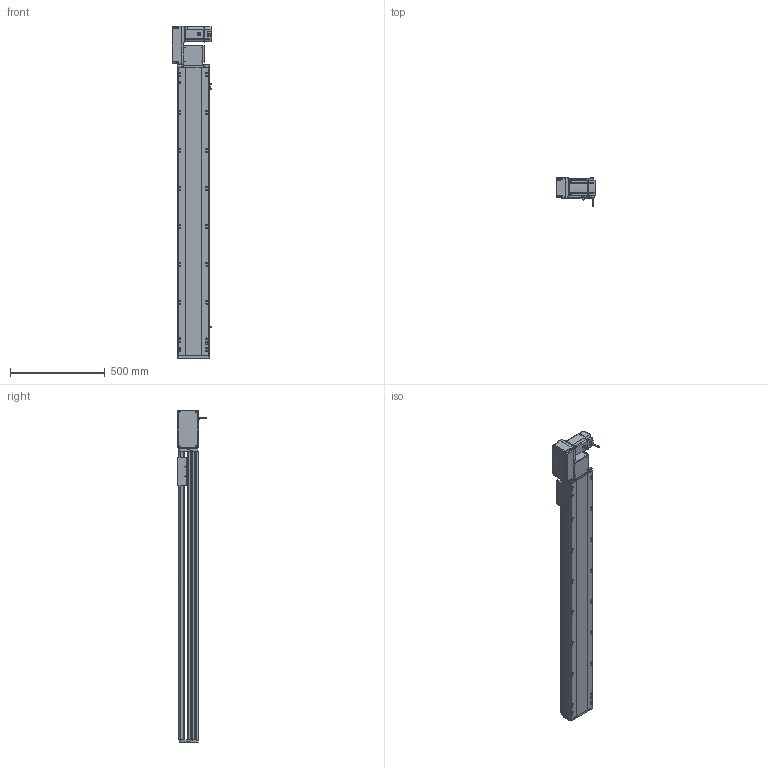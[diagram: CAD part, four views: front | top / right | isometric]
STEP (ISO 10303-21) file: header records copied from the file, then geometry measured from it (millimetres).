
FILE_DESCRIPTION (( 'STEP AP214' ), '1' );
FILE_NAME ('RTB17S-XX-1250-L-M75-C4.STEP', '2025-12-12T00:14:34', ( '' ), ( '' ), 'SwSTEP 2.0', 'SolidWorks 2018', '' );
FILE_SCHEMA (( 'AUTOMOTIVE_DESIGN' ));
Length unit declared in the file: millimetre
Products named in the file (15): RTB17S-賑釱^RTB17S-XX-XX-L-M75-C4; RTB17S-L-001-耜醱啣^RTB17S-XX-XX-L-M75-C4; RTB17S-L-004-賑釱^RTB17S-賑釱_RTB17S-XX-XX-L-M75-C4; RTB17S-L-々湍釱蚾饜-750W^RTB17S-XX-XX-L-M75-C4; EE672^RTB17S-XX-XX-L-M75-C4; RTB22S-GY-005P^RTB17S-L-々湍釱蚾饜-750W_RTB17S-XX-XX-L-M75-C4; RTB17S-XX-1250-L-M75-C4; RTB22S-GY-017P^RTB17S-L-々湍釱蚾饜-750W_RTB17S-XX-XX-L-M75-C4; 750W萇儂^RTB17S-XX-XX-L-M75-C4; RTB17-R-011菁釱^RTB17S-XX-XX-L-M75-C4; RTB17S-L-007奻裔^RTB17S-XX-XX-L-M75-C4; RTB22S-GY-018P^RTB17S-L-々湍釱蚾饜-750W_RTB17S-XX-XX-L-M75-C4; RTB22S-GY-008-M75--萇儂啣^RTB17S-L-々湍釱蚾饜-750W_RTB17S-XX-XX-L-M75-C4; RTH13-BL-012覜茼え俋离^RTB17S-賑釱_RTB17S-XX-XX-L-M75-C4; RMP17S-L-014-T20-P75--々湍釱^RTB17S-L-々湍釱蚾饜-750W_RTB17S-XX-XX-L-M75-C4
Assembly tree (17 placements, depth 3):
  RTB17S-XX-1250-L-M75-C4
    RTB17-R-011菁釱^RTB17S-XX-XX-L-M75-C4
    EE672^RTB17S-XX-XX-L-M75-C4  x3
    RTB17S-L-001-耜醱啣^RTB17S-XX-XX-L-M75-C4
    RTB17S-賑釱^RTB17S-XX-XX-L-M75-C4
      RTB17S-L-004-賑釱^RTB17S-賑釱_RTB17S-XX-XX-L-M75-C4
      RTH13-BL-012覜茼え俋离^RTB17S-賑釱_RTB17S-XX-XX-L-M75-C4
    RTB17S-L-007奻裔^RTB17S-XX-XX-L-M75-C4
    750W萇儂^RTB17S-XX-XX-L-M75-C4
    RTB17S-L-々湍釱蚾饜-750W^RTB17S-XX-XX-L-M75-C4
      RMP17S-L-014-T20-P75--々湍釱^RTB17S-L-々湍釱蚾饜-750W_RTB17S-XX-XX-L-M75-C4
      RTB22S-GY-005P^RTB17S-L-々湍釱蚾饜-750W_RTB17S-XX-XX-L-M75-C4
      RTB22S-GY-017P^RTB17S-L-々湍釱蚾饜-750W_RTB17S-XX-XX-L-M75-C4  x2
      RTB22S-GY-008-M75--萇儂啣^RTB17S-L-々湍釱蚾饜-750W_RTB17S-XX-XX-L-M75-C4
      RTB22S-GY-018P^RTB17S-L-々湍釱蚾饜-750W_RTB17S-XX-XX-L-M75-C4
Bounding box: 210.4 x 152.7 x 1749 mm (x, y, z)
Volume: 13758686.6 mm3; surface area: 2379800 mm2
Topology: 17 solids, 17 shells, 2121 faces, 5890 edges, 3806 vertices
Faces by surface type: plane 974, cylinder 731, bspline 294, cone 110, sphere 8, torus 4
Entity records: 59638 total; most frequent: CARTESIAN_POINT 17554, ORIENTED_EDGE 8624, DIRECTION 8042, EDGE_CURVE 4312, AXIS2_PLACEMENT_3D 2826, VERTEX_POINT 2810, VECTOR 2390, LINE 2390
